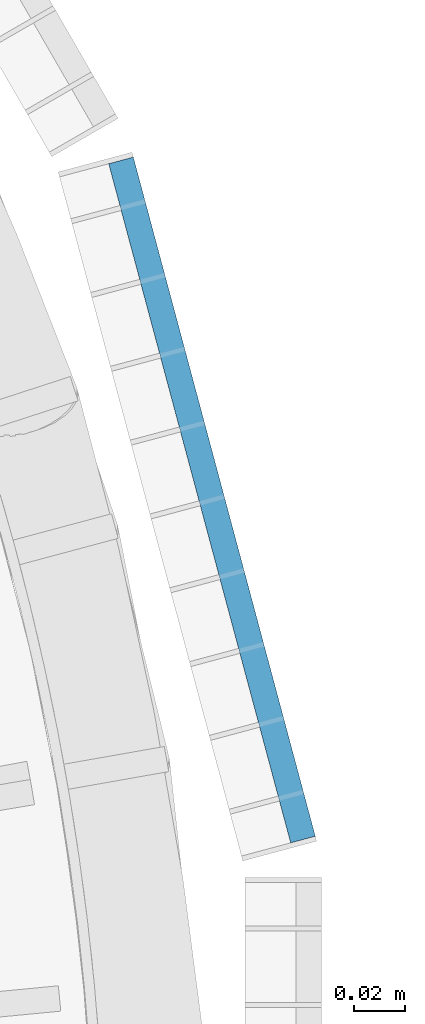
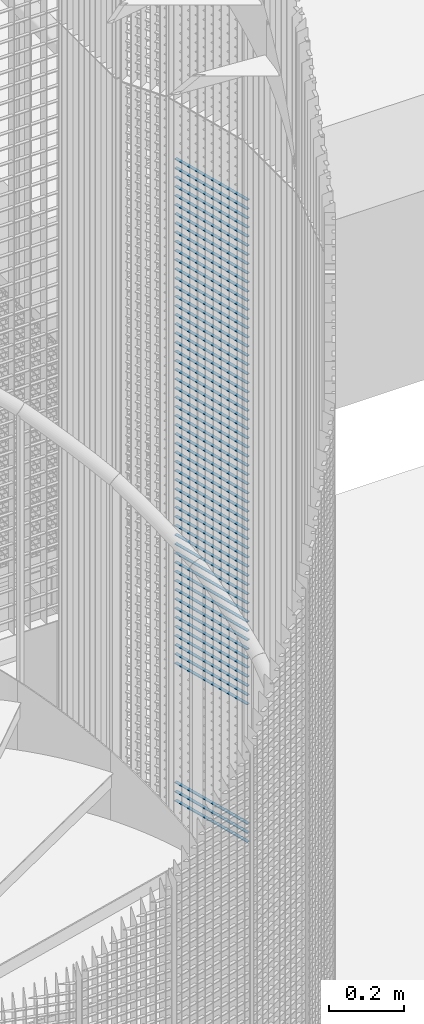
# One storey, part 288 of 1183: 59 beams, 1 element without a shape of its own.
"""IFC2X3 building model written with IfcOpenShell, lengths in millimetres."""

from ifc_helpers import new_model, si_unit, frame, origin_with_axes, origin_2d_with_axis, place, context, subcontext, project, spatial, rectangle, extrude, material, type_object, element, aggregate, save


model = new_model("IFC2X3")

# Units and contexts
model_context = context("Model", 3, precision=1e-05, world=origin_with_axes())
body_context = subcontext(model_context, "Body", "Model", "MODEL_VIEW")
ifc_project = project(units=[si_unit("LENGTHUNIT", "METRE", prefix="MILLI"), si_unit("AREAUNIT", "SQUARE_METRE"), si_unit("VOLUMEUNIT", "CUBIC_METRE"), si_unit("MASSUNIT", "GRAM", prefix="KILO"), si_unit("TIMEUNIT", "SECOND"), si_unit("PLANEANGLEUNIT", "RADIAN"), si_unit("SOLIDANGLEUNIT", "STERADIAN"), si_unit("THERMODYNAMICTEMPERATUREUNIT", "DEGREE_CELSIUS"), si_unit("LUMINOUSINTENSITYUNIT", "LUMEN")], contexts=[model_context])

# Site, building, storey
site_placement = place(None, origin_with_axes())
site = spatial("IfcSite", under=ifc_project, at=site_placement, Name="Undefined", CompositionType="ELEMENT")
building_placement = place(site_placement, origin_with_axes())
building = spatial("IfcBuilding", under=site, at=building_placement, Name="Undefined", CompositionType="ELEMENT")
storey_placement = place(building_placement, origin_with_axes())
storey = spatial("IfcBuildingStorey", under=building, at=storey_placement, Name="Undefined", CompositionType="ELEMENT", Elevation=0.0)

# Assembly, beams
assembly_placement = place(storey_placement, origin_with_axes())
assembly = element("IfcElementAssembly", 1, at=assembly_placement, inside=storey, Name="BORDURE", AssemblyPlace="NOTDEFINED", PredefinedType="NOTDEFINED")
ifc_material = material(Name="STEEL/S235JR")
beam_type = type_object("IfcBeamType", Name="PL2*10", PredefinedType="NOTDEFINED")
beam_1_placement = place(assembly_placement, frame((1111.25508286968, 154.895926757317, 11790.0), z_axis=(0.965925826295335, 0.258819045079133, 0.0), x_axis=(-0.258819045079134, 0.965925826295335, 0.0)))
beam_1 = element("IfcBeam", 2, at=beam_1_placement, type_object=beam_type, material=ifc_material, Name="ENTRETOISE", context=body_context, shape_type="SweptSolid", body=[
    extrude(rectangle(XDim=2.0, YDim=10.0, at=origin_2d_with_axis()), frame((275.999999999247, 9.09494701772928e-13, 1.53210777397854e-14), z_axis=(-1.0, 0.0, 0.0), x_axis=(0.0, -1.0, 0.0)), (0.0, 0.0, 1.0), 276.0),
])
beam_2_placement = place(assembly_placement, frame((1111.25508286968, 154.895926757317, 11760.0), z_axis=(0.965925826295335, 0.258819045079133, 0.0), x_axis=(-0.258819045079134, 0.965925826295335, 0.0)))
beam_2 = element("IfcBeam", 3, at=beam_2_placement, type_object=beam_type, material=ifc_material, Name="ENTRETOISE", context=body_context, shape_type="SweptSolid", body=[
    extrude(rectangle(XDim=2.0, YDim=10.0, at=origin_2d_with_axis()), frame((275.999999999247, 9.09494701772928e-13, 1.53210777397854e-14), z_axis=(-1.0, 0.0, 0.0), x_axis=(0.0, -1.0, 0.0)), (0.0, 0.0, 1.0), 276.0),
])
beam_3_placement = place(assembly_placement, frame((1111.25508286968, 154.895926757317, 11730.0), z_axis=(0.965925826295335, 0.258819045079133, 0.0), x_axis=(-0.258819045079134, 0.965925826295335, 0.0)))
beam_3 = element("IfcBeam", 4, at=beam_3_placement, type_object=beam_type, material=ifc_material, Name="ENTRETOISE", context=body_context, shape_type="SweptSolid", body=[
    extrude(rectangle(XDim=2.0, YDim=10.0, at=origin_2d_with_axis()), frame((275.999999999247, 9.09494701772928e-13, 1.53210777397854e-14), z_axis=(-1.0, 0.0, 0.0), x_axis=(0.0, -1.0, 0.0)), (0.0, 0.0, 1.0), 276.0),
])
beam_4_placement = place(assembly_placement, frame((1111.25508286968, 154.895926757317, 11700.0), z_axis=(0.965925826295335, 0.258819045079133, 0.0), x_axis=(-0.258819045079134, 0.965925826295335, 0.0)))
beam_4 = element("IfcBeam", 5, at=beam_4_placement, type_object=beam_type, material=ifc_material, Name="ENTRETOISE", context=body_context, shape_type="SweptSolid", body=[
    extrude(rectangle(XDim=2.0, YDim=10.0, at=origin_2d_with_axis()), frame((275.999999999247, 9.09494701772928e-13, 1.53210777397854e-14), z_axis=(-1.0, 0.0, 0.0), x_axis=(0.0, -1.0, 0.0)), (0.0, 0.0, 1.0), 276.0),
])
beam_5_placement = place(assembly_placement, frame((1111.25508286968, 154.895926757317, 11670.0), z_axis=(0.965925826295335, 0.258819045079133, 0.0), x_axis=(-0.258819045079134, 0.965925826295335, 0.0)))
beam_5 = element("IfcBeam", 6, at=beam_5_placement, type_object=beam_type, material=ifc_material, Name="ENTRETOISE", context=body_context, shape_type="SweptSolid", body=[
    extrude(rectangle(XDim=2.0, YDim=10.0, at=origin_2d_with_axis()), frame((275.999999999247, 9.09494701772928e-13, 1.53210777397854e-14), z_axis=(-1.0, 0.0, 0.0), x_axis=(0.0, -1.0, 0.0)), (0.0, 0.0, 1.0), 276.0),
])
beam_6_placement = place(assembly_placement, frame((1111.25508286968, 154.895926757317, 11640.0), z_axis=(0.965925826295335, 0.258819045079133, 0.0), x_axis=(-0.258819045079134, 0.965925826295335, 0.0)))
beam_6 = element("IfcBeam", 7, at=beam_6_placement, type_object=beam_type, material=ifc_material, Name="ENTRETOISE", context=body_context, shape_type="SweptSolid", body=[
    extrude(rectangle(XDim=2.0, YDim=10.0, at=origin_2d_with_axis()), frame((275.999999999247, 9.09494701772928e-13, 1.53210777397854e-14), z_axis=(-1.0, 0.0, 0.0), x_axis=(0.0, -1.0, 0.0)), (0.0, 0.0, 1.0), 276.0),
])
beam_7_placement = place(assembly_placement, frame((1111.25508286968, 154.895926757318, 11610.0), z_axis=(0.965925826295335, 0.258819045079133, 0.0), x_axis=(-0.258819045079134, 0.965925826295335, 0.0)))
beam_7 = element("IfcBeam", 8, at=beam_7_placement, type_object=beam_type, material=ifc_material, Name="ENTRETOISE", context=body_context, shape_type="SweptSolid", body=[
    extrude(rectangle(XDim=2.0, YDim=10.0, at=origin_2d_with_axis()), frame((275.999999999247, 9.09494701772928e-13, 1.53210777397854e-14), z_axis=(-1.0, 0.0, 0.0), x_axis=(0.0, -1.0, 0.0)), (0.0, 0.0, 1.0), 276.0),
])
beam_8_placement = place(assembly_placement, frame((1111.25508286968, 154.895926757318, 11580.0), z_axis=(0.965925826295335, 0.258819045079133, 0.0), x_axis=(-0.258819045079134, 0.965925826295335, 0.0)))
beam_8 = element("IfcBeam", 9, at=beam_8_placement, type_object=beam_type, material=ifc_material, Name="ENTRETOISE", context=body_context, shape_type="SweptSolid", body=[
    extrude(rectangle(XDim=2.0, YDim=10.0, at=origin_2d_with_axis()), frame((275.999999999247, 9.09494701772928e-13, 1.53210777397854e-14), z_axis=(-1.0, 0.0, 0.0), x_axis=(0.0, -1.0, 0.0)), (0.0, 0.0, 1.0), 276.0),
])
beam_9_placement = place(assembly_placement, frame((1111.25508286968, 154.895926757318, 11550.0), z_axis=(0.965925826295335, 0.258819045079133, 0.0), x_axis=(-0.258819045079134, 0.965925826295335, 0.0)))
beam_9 = element("IfcBeam", 10, at=beam_9_placement, type_object=beam_type, material=ifc_material, Name="ENTRETOISE", context=body_context, shape_type="SweptSolid", body=[
    extrude(rectangle(XDim=2.0, YDim=10.0, at=origin_2d_with_axis()), frame((275.999999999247, 9.09494701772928e-13, 1.53210777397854e-14), z_axis=(-1.0, 0.0, 0.0), x_axis=(0.0, -1.0, 0.0)), (0.0, 0.0, 1.0), 276.0),
])
beam_10_placement = place(assembly_placement, frame((1111.25508286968, 154.895926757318, 11520.0), z_axis=(0.965925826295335, 0.258819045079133, 0.0), x_axis=(-0.258819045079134, 0.965925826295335, 0.0)))
beam_10 = element("IfcBeam", 11, at=beam_10_placement, type_object=beam_type, material=ifc_material, Name="ENTRETOISE", context=body_context, shape_type="SweptSolid", body=[
    extrude(rectangle(XDim=2.0, YDim=10.0, at=origin_2d_with_axis()), frame((275.999999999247, 9.09494701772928e-13, 1.53210777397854e-14), z_axis=(-1.0, 0.0, 0.0), x_axis=(0.0, -1.0, 0.0)), (0.0, 0.0, 1.0), 276.0),
])
beam_11_placement = place(assembly_placement, frame((1111.25508286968, 154.895926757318, 11490.0), z_axis=(0.965925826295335, 0.258819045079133, 0.0), x_axis=(-0.258819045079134, 0.965925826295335, 0.0)))
beam_11 = element("IfcBeam", 12, at=beam_11_placement, type_object=beam_type, material=ifc_material, Name="ENTRETOISE", context=body_context, shape_type="SweptSolid", body=[
    extrude(rectangle(XDim=2.0, YDim=10.0, at=origin_2d_with_axis()), frame((275.999999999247, 9.09494701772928e-13, 1.53210777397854e-14), z_axis=(-1.0, 0.0, 0.0), x_axis=(0.0, -1.0, 0.0)), (0.0, 0.0, 1.0), 276.0),
])
beam_12_placement = place(assembly_placement, frame((1111.25508286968, 154.895926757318, 11460.0), z_axis=(0.965925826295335, 0.258819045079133, 0.0), x_axis=(-0.258819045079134, 0.965925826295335, 0.0)))
beam_12 = element("IfcBeam", 13, at=beam_12_placement, type_object=beam_type, material=ifc_material, Name="ENTRETOISE", context=body_context, shape_type="SweptSolid", body=[
    extrude(rectangle(XDim=2.0, YDim=10.0, at=origin_2d_with_axis()), frame((275.999999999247, 9.09494701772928e-13, 1.53210777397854e-14), z_axis=(-1.0, 0.0, 0.0), x_axis=(0.0, -1.0, 0.0)), (0.0, 0.0, 1.0), 276.0),
])
beam_13_placement = place(assembly_placement, frame((1111.25508286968, 154.895926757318, 11430.0), z_axis=(0.965925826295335, 0.258819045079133, 0.0), x_axis=(-0.258819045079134, 0.965925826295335, 0.0)))
beam_13 = element("IfcBeam", 14, at=beam_13_placement, type_object=beam_type, material=ifc_material, Name="ENTRETOISE", context=body_context, shape_type="SweptSolid", body=[
    extrude(rectangle(XDim=2.0, YDim=10.0, at=origin_2d_with_axis()), frame((275.999999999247, 9.09494701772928e-13, 1.53210777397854e-14), z_axis=(-1.0, 0.0, 0.0), x_axis=(0.0, -1.0, 0.0)), (0.0, 0.0, 1.0), 276.0),
])
beam_14_placement = place(assembly_placement, frame((1111.25508286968, 154.895926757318, 11400.0), z_axis=(0.965925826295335, 0.258819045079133, 0.0), x_axis=(-0.258819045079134, 0.965925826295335, 0.0)))
beam_14 = element("IfcBeam", 15, at=beam_14_placement, type_object=beam_type, material=ifc_material, Name="ENTRETOISE", context=body_context, shape_type="SweptSolid", body=[
    extrude(rectangle(XDim=2.0, YDim=10.0, at=origin_2d_with_axis()), frame((275.999999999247, 9.09494701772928e-13, 1.53210777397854e-14), z_axis=(-1.0, 0.0, 0.0), x_axis=(0.0, -1.0, 0.0)), (0.0, 0.0, 1.0), 276.0),
])
beam_15_placement = place(assembly_placement, frame((1111.25508286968, 154.895926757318, 11370.0), z_axis=(0.965925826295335, 0.258819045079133, 0.0), x_axis=(-0.258819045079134, 0.965925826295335, 0.0)))
beam_15 = element("IfcBeam", 16, at=beam_15_placement, type_object=beam_type, material=ifc_material, Name="ENTRETOISE", context=body_context, shape_type="SweptSolid", body=[
    extrude(rectangle(XDim=2.0, YDim=10.0, at=origin_2d_with_axis()), frame((275.999999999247, 9.09494701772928e-13, 1.53210777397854e-14), z_axis=(-1.0, 0.0, 0.0), x_axis=(0.0, -1.0, 0.0)), (0.0, 0.0, 1.0), 276.0),
])
beam_16_placement = place(assembly_placement, frame((1111.25508286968, 154.895926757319, 11340.0), z_axis=(0.965925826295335, 0.258819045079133, 0.0), x_axis=(-0.258819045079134, 0.965925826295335, 0.0)))
beam_16 = element("IfcBeam", 17, at=beam_16_placement, type_object=beam_type, material=ifc_material, Name="ENTRETOISE", context=body_context, shape_type="SweptSolid", body=[
    extrude(rectangle(XDim=2.0, YDim=10.0, at=origin_2d_with_axis()), frame((275.999999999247, 9.09494701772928e-13, 1.53210777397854e-14), z_axis=(-1.0, 0.0, 0.0), x_axis=(0.0, -1.0, 0.0)), (0.0, 0.0, 1.0), 276.0),
])
beam_17_placement = place(assembly_placement, frame((1111.25508286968, 154.895926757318, 11310.0), z_axis=(0.965925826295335, 0.258819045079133, 0.0), x_axis=(-0.258819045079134, 0.965925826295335, 0.0)))
beam_17 = element("IfcBeam", 18, at=beam_17_placement, type_object=beam_type, material=ifc_material, Name="ENTRETOISE", context=body_context, shape_type="SweptSolid", body=[
    extrude(rectangle(XDim=2.0, YDim=10.0, at=origin_2d_with_axis()), frame((275.999999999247, 9.09494701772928e-13, 1.53210777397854e-14), z_axis=(-1.0, 0.0, 0.0), x_axis=(0.0, -1.0, 0.0)), (0.0, 0.0, 1.0), 276.0),
])
beam_18_placement = place(assembly_placement, frame((1111.25508286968, 154.895926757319, 11280.0), z_axis=(0.965925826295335, 0.258819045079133, 0.0), x_axis=(-0.258819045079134, 0.965925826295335, 0.0)))
beam_18 = element("IfcBeam", 19, at=beam_18_placement, type_object=beam_type, material=ifc_material, Name="ENTRETOISE", context=body_context, shape_type="SweptSolid", body=[
    extrude(rectangle(XDim=2.0, YDim=10.0, at=origin_2d_with_axis()), frame((275.999999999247, 9.09494701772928e-13, 1.53210777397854e-14), z_axis=(-1.0, 0.0, 0.0), x_axis=(0.0, -1.0, 0.0)), (0.0, 0.0, 1.0), 276.0),
])
beam_19_placement = place(assembly_placement, frame((1111.25508286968, 154.895926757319, 11250.0), z_axis=(0.965925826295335, 0.258819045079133, 0.0), x_axis=(-0.258819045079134, 0.965925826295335, 0.0)))
beam_19 = element("IfcBeam", 20, at=beam_19_placement, type_object=beam_type, material=ifc_material, Name="ENTRETOISE", context=body_context, shape_type="SweptSolid", body=[
    extrude(rectangle(XDim=2.0, YDim=10.0, at=origin_2d_with_axis()), frame((275.999999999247, 9.09494701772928e-13, 1.53210777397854e-14), z_axis=(-1.0, 0.0, 0.0), x_axis=(0.0, -1.0, 0.0)), (0.0, 0.0, 1.0), 276.0),
])
beam_20_placement = place(assembly_placement, frame((1111.25508286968, 154.895926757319, 11220.0), z_axis=(0.965925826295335, 0.258819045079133, 0.0), x_axis=(-0.258819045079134, 0.965925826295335, 0.0)))
beam_20 = element("IfcBeam", 21, at=beam_20_placement, type_object=beam_type, material=ifc_material, Name="ENTRETOISE", context=body_context, shape_type="SweptSolid", body=[
    extrude(rectangle(XDim=2.0, YDim=10.0, at=origin_2d_with_axis()), frame((275.999999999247, 9.09494701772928e-13, 1.53210777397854e-14), z_axis=(-1.0, 0.0, 0.0), x_axis=(0.0, -1.0, 0.0)), (0.0, 0.0, 1.0), 276.0),
])
beam_21_placement = place(assembly_placement, frame((1111.25508286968, 154.895926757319, 11190.0), z_axis=(0.965925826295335, 0.258819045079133, 0.0), x_axis=(-0.258819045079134, 0.965925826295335, 0.0)))
beam_21 = element("IfcBeam", 22, at=beam_21_placement, type_object=beam_type, material=ifc_material, Name="ENTRETOISE", context=body_context, shape_type="SweptSolid", body=[
    extrude(rectangle(XDim=2.0, YDim=10.0, at=origin_2d_with_axis()), frame((275.999999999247, 9.09494701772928e-13, 1.53210777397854e-14), z_axis=(-1.0, 0.0, 0.0), x_axis=(0.0, -1.0, 0.0)), (0.0, 0.0, 1.0), 276.0),
])
beam_22_placement = place(assembly_placement, frame((1111.25508286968, 154.895926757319, 11160.0), z_axis=(0.965925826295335, 0.258819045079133, 0.0), x_axis=(-0.258819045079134, 0.965925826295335, 0.0)))
beam_22 = element("IfcBeam", 23, at=beam_22_placement, type_object=beam_type, material=ifc_material, Name="ENTRETOISE", context=body_context, shape_type="SweptSolid", body=[
    extrude(rectangle(XDim=2.0, YDim=10.0, at=origin_2d_with_axis()), frame((275.999999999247, 9.09494701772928e-13, 1.53210777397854e-14), z_axis=(-1.0, 0.0, 0.0), x_axis=(0.0, -1.0, 0.0)), (0.0, 0.0, 1.0), 276.0),
])
beam_23_placement = place(assembly_placement, frame((1111.25508286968, 154.895926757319, 11130.0), z_axis=(0.965925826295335, 0.258819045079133, 0.0), x_axis=(-0.258819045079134, 0.965925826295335, 0.0)))
beam_23 = element("IfcBeam", 24, at=beam_23_placement, type_object=beam_type, material=ifc_material, Name="ENTRETOISE", context=body_context, shape_type="SweptSolid", body=[
    extrude(rectangle(XDim=2.0, YDim=10.0, at=origin_2d_with_axis()), frame((275.999999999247, 9.09494701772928e-13, 1.53210777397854e-14), z_axis=(-1.0, 0.0, 0.0), x_axis=(0.0, -1.0, 0.0)), (0.0, 0.0, 1.0), 276.0),
])
beam_24_placement = place(assembly_placement, frame((1111.25508286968, 154.895926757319, 11100.0), z_axis=(0.965925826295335, 0.258819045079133, 0.0), x_axis=(-0.258819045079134, 0.965925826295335, 0.0)))
beam_24 = element("IfcBeam", 25, at=beam_24_placement, type_object=beam_type, material=ifc_material, Name="ENTRETOISE", context=body_context, shape_type="SweptSolid", body=[
    extrude(rectangle(XDim=2.0, YDim=10.0, at=origin_2d_with_axis()), frame((275.999999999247, 9.09494701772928e-13, 1.53210777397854e-14), z_axis=(-1.0, 0.0, 0.0), x_axis=(0.0, -1.0, 0.0)), (0.0, 0.0, 1.0), 276.0),
])
beam_25_placement = place(assembly_placement, frame((1111.25508286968, 154.895926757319, 11070.0), z_axis=(0.965925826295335, 0.258819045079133, 0.0), x_axis=(-0.258819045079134, 0.965925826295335, 0.0)))
beam_25 = element("IfcBeam", 26, at=beam_25_placement, type_object=beam_type, material=ifc_material, Name="ENTRETOISE", context=body_context, shape_type="SweptSolid", body=[
    extrude(rectangle(XDim=2.0, YDim=10.0, at=origin_2d_with_axis()), frame((275.999999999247, 9.09494701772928e-13, 1.53210777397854e-14), z_axis=(-1.0, 0.0, 0.0), x_axis=(0.0, -1.0, 0.0)), (0.0, 0.0, 1.0), 276.0),
])
beam_26_placement = place(assembly_placement, frame((1111.25508286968, 154.89592675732, 11040.0), z_axis=(0.965925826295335, 0.258819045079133, 0.0), x_axis=(-0.258819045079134, 0.965925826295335, 0.0)))
beam_26 = element("IfcBeam", 27, at=beam_26_placement, type_object=beam_type, material=ifc_material, Name="ENTRETOISE", context=body_context, shape_type="SweptSolid", body=[
    extrude(rectangle(XDim=2.0, YDim=10.0, at=origin_2d_with_axis()), frame((275.999999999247, 9.09494701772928e-13, 1.53210777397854e-14), z_axis=(-1.0, 0.0, 0.0), x_axis=(0.0, -1.0, 0.0)), (0.0, 0.0, 1.0), 276.0),
])
beam_27_placement = place(assembly_placement, frame((1111.25508286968, 154.89592675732, 11010.0), z_axis=(0.965925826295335, 0.258819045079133, 0.0), x_axis=(-0.258819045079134, 0.965925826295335, 0.0)))
beam_27 = element("IfcBeam", 28, at=beam_27_placement, type_object=beam_type, material=ifc_material, Name="ENTRETOISE", context=body_context, shape_type="SweptSolid", body=[
    extrude(rectangle(XDim=2.0, YDim=10.0, at=origin_2d_with_axis()), frame((275.999999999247, 9.09494701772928e-13, 1.53210777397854e-14), z_axis=(-1.0, 0.0, 0.0), x_axis=(0.0, -1.0, 0.0)), (0.0, 0.0, 1.0), 276.0),
])
beam_28_placement = place(assembly_placement, frame((1111.25508286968, 154.89592675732, 10980.0), z_axis=(0.965925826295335, 0.258819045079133, 0.0), x_axis=(-0.258819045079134, 0.965925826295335, 0.0)))
beam_28 = element("IfcBeam", 29, at=beam_28_placement, type_object=beam_type, material=ifc_material, Name="ENTRETOISE", context=body_context, shape_type="SweptSolid", body=[
    extrude(rectangle(XDim=2.0, YDim=10.0, at=origin_2d_with_axis()), frame((275.999999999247, 9.09494701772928e-13, 1.53210777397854e-14), z_axis=(-1.0, 0.0, 0.0), x_axis=(0.0, -1.0, 0.0)), (0.0, 0.0, 1.0), 276.0),
])
beam_29_placement = place(assembly_placement, frame((1111.25508286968, 154.89592675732, 10950.0), z_axis=(0.965925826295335, 0.258819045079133, 0.0), x_axis=(-0.258819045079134, 0.965925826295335, 0.0)))
beam_29 = element("IfcBeam", 30, at=beam_29_placement, type_object=beam_type, material=ifc_material, Name="ENTRETOISE", context=body_context, shape_type="SweptSolid", body=[
    extrude(rectangle(XDim=2.0, YDim=10.0, at=origin_2d_with_axis()), frame((275.999999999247, 9.09494701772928e-13, 1.53210777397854e-14), z_axis=(-1.0, 0.0, 0.0), x_axis=(0.0, -1.0, 0.0)), (0.0, 0.0, 1.0), 276.0),
])
beam_30_placement = place(assembly_placement, frame((1111.25508286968, 154.89592675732, 10920.0), z_axis=(0.965925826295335, 0.258819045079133, 0.0), x_axis=(-0.258819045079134, 0.965925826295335, 0.0)))
beam_30 = element("IfcBeam", 31, at=beam_30_placement, type_object=beam_type, material=ifc_material, Name="ENTRETOISE", context=body_context, shape_type="SweptSolid", body=[
    extrude(rectangle(XDim=2.0, YDim=10.0, at=origin_2d_with_axis()), frame((275.999999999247, 9.09494701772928e-13, 1.53210777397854e-14), z_axis=(-1.0, 0.0, 0.0), x_axis=(0.0, -1.0, 0.0)), (0.0, 0.0, 1.0), 276.0),
])
beam_31_placement = place(assembly_placement, frame((1111.25508286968, 154.89592675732, 10890.0), z_axis=(0.965925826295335, 0.258819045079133, 0.0), x_axis=(-0.258819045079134, 0.965925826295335, 0.0)))
beam_31 = element("IfcBeam", 32, at=beam_31_placement, type_object=beam_type, material=ifc_material, Name="ENTRETOISE", context=body_context, shape_type="SweptSolid", body=[
    extrude(rectangle(XDim=2.0, YDim=10.0, at=origin_2d_with_axis()), frame((275.999999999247, 9.09494701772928e-13, 1.53210777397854e-14), z_axis=(-1.0, 0.0, 0.0), x_axis=(0.0, -1.0, 0.0)), (0.0, 0.0, 1.0), 276.0),
])
beam_32_placement = place(assembly_placement, frame((1111.25508286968, 154.89592675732, 10860.0), z_axis=(0.965925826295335, 0.258819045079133, 0.0), x_axis=(-0.258819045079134, 0.965925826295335, 0.0)))
beam_32 = element("IfcBeam", 33, at=beam_32_placement, type_object=beam_type, material=ifc_material, Name="ENTRETOISE", context=body_context, shape_type="SweptSolid", body=[
    extrude(rectangle(XDim=2.0, YDim=10.0, at=origin_2d_with_axis()), frame((275.999999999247, 9.09494701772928e-13, 1.53210777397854e-14), z_axis=(-1.0, 0.0, 0.0), x_axis=(0.0, -1.0, 0.0)), (0.0, 0.0, 1.0), 276.0),
])
beam_33_placement = place(assembly_placement, frame((1111.25508286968, 154.89592675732, 10830.0), z_axis=(0.965925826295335, 0.258819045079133, 0.0), x_axis=(-0.258819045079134, 0.965925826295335, 0.0)))
beam_33 = element("IfcBeam", 34, at=beam_33_placement, type_object=beam_type, material=ifc_material, Name="ENTRETOISE", context=body_context, shape_type="SweptSolid", body=[
    extrude(rectangle(XDim=2.0, YDim=10.0, at=origin_2d_with_axis()), frame((275.999999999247, 9.09494701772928e-13, 1.53210777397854e-14), z_axis=(-1.0, 0.0, 0.0), x_axis=(0.0, -1.0, 0.0)), (0.0, 0.0, 1.0), 276.0),
])
beam_34_placement = place(assembly_placement, frame((1111.25508286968, 154.89592675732, 10800.0), z_axis=(0.965925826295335, 0.258819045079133, 0.0), x_axis=(-0.258819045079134, 0.965925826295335, 0.0)))
beam_34 = element("IfcBeam", 35, at=beam_34_placement, type_object=beam_type, material=ifc_material, Name="ENTRETOISE", context=body_context, shape_type="SweptSolid", body=[
    extrude(rectangle(XDim=2.0, YDim=10.0, at=origin_2d_with_axis()), frame((275.999999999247, 9.09494701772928e-13, 1.53210777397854e-14), z_axis=(-1.0, 0.0, 0.0), x_axis=(0.0, -1.0, 0.0)), (0.0, 0.0, 1.0), 276.0),
])
beam_35_placement = place(assembly_placement, frame((1111.25508286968, 154.89592675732, 10770.0), z_axis=(0.965925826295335, 0.258819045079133, 0.0), x_axis=(-0.258819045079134, 0.965925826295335, 0.0)))
beam_35 = element("IfcBeam", 36, at=beam_35_placement, type_object=beam_type, material=ifc_material, Name="ENTRETOISE", context=body_context, shape_type="SweptSolid", body=[
    extrude(rectangle(XDim=2.0, YDim=10.0, at=origin_2d_with_axis()), frame((275.999999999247, 9.09494701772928e-13, 1.53210777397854e-14), z_axis=(-1.0, 0.0, 0.0), x_axis=(0.0, -1.0, 0.0)), (0.0, 0.0, 1.0), 276.0),
])
beam_36_placement = place(assembly_placement, frame((1111.25508286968, 154.89592675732, 10740.0), z_axis=(0.965925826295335, 0.258819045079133, 0.0), x_axis=(-0.258819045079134, 0.965925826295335, 0.0)))
beam_36 = element("IfcBeam", 37, at=beam_36_placement, type_object=beam_type, material=ifc_material, Name="ENTRETOISE", context=body_context, shape_type="SweptSolid", body=[
    extrude(rectangle(XDim=2.0, YDim=10.0, at=origin_2d_with_axis()), frame((275.999999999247, 9.09494701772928e-13, 1.53210777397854e-14), z_axis=(-1.0, 0.0, 0.0), x_axis=(0.0, -1.0, 0.0)), (0.0, 0.0, 1.0), 276.0),
])
beam_37_placement = place(assembly_placement, frame((1111.25508286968, 154.895926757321, 10710.0), z_axis=(0.965925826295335, 0.258819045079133, 0.0), x_axis=(-0.258819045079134, 0.965925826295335, 0.0)))
beam_37 = element("IfcBeam", 38, at=beam_37_placement, type_object=beam_type, material=ifc_material, Name="ENTRETOISE", context=body_context, shape_type="SweptSolid", body=[
    extrude(rectangle(XDim=2.0, YDim=10.0, at=origin_2d_with_axis()), frame((275.999999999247, 9.09494701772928e-13, 1.53210777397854e-14), z_axis=(-1.0, 0.0, 0.0), x_axis=(0.0, -1.0, 0.0)), (0.0, 0.0, 1.0), 276.0),
])
beam_38_placement = place(assembly_placement, frame((1111.25508286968, 154.895926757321, 10680.0), z_axis=(0.965925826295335, 0.258819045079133, 0.0), x_axis=(-0.258819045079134, 0.965925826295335, 0.0)))
beam_38 = element("IfcBeam", 39, at=beam_38_placement, type_object=beam_type, material=ifc_material, Name="ENTRETOISE", context=body_context, shape_type="SweptSolid", body=[
    extrude(rectangle(XDim=2.0, YDim=10.0, at=origin_2d_with_axis()), frame((275.999999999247, 9.09494701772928e-13, 1.53210777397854e-14), z_axis=(-1.0, 0.0, 0.0), x_axis=(0.0, -1.0, 0.0)), (0.0, 0.0, 1.0), 276.0),
])
beam_39_placement = place(assembly_placement, frame((1111.25508286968, 154.895926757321, 10650.0), z_axis=(0.965925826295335, 0.258819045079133, 0.0), x_axis=(-0.258819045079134, 0.965925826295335, 0.0)))
beam_39 = element("IfcBeam", 40, at=beam_39_placement, type_object=beam_type, material=ifc_material, Name="ENTRETOISE", context=body_context, shape_type="SweptSolid", body=[
    extrude(rectangle(XDim=2.0, YDim=10.0, at=origin_2d_with_axis()), frame((275.999999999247, 9.09494701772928e-13, 1.53210777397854e-14), z_axis=(-1.0, 0.0, 0.0), x_axis=(0.0, -1.0, 0.0)), (0.0, 0.0, 1.0), 276.0),
])
beam_40_placement = place(assembly_placement, frame((1111.25508286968, 154.895926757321, 10620.0), z_axis=(0.965925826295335, 0.258819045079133, 0.0), x_axis=(-0.258819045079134, 0.965925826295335, 0.0)))
beam_40 = element("IfcBeam", 41, at=beam_40_placement, type_object=beam_type, material=ifc_material, Name="ENTRETOISE", context=body_context, shape_type="SweptSolid", body=[
    extrude(rectangle(XDim=2.0, YDim=10.0, at=origin_2d_with_axis()), frame((275.999999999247, 9.09494701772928e-13, 1.53210777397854e-14), z_axis=(-1.0, 0.0, 0.0), x_axis=(0.0, -1.0, 0.0)), (0.0, 0.0, 1.0), 276.0),
])
beam_41_placement = place(assembly_placement, frame((1111.25508286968, 154.895926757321, 10590.0), z_axis=(0.965925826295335, 0.258819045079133, 0.0), x_axis=(-0.258819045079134, 0.965925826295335, 0.0)))
beam_41 = element("IfcBeam", 42, at=beam_41_placement, type_object=beam_type, material=ifc_material, Name="ENTRETOISE", context=body_context, shape_type="SweptSolid", body=[
    extrude(rectangle(XDim=2.0, YDim=10.0, at=origin_2d_with_axis()), frame((275.999999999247, 9.09494701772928e-13, 1.53210777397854e-14), z_axis=(-1.0, 0.0, 0.0), x_axis=(0.0, -1.0, 0.0)), (0.0, 0.0, 1.0), 276.0),
])
beam_42_placement = place(assembly_placement, frame((1111.25508286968, 154.895926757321, 10560.0), z_axis=(0.965925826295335, 0.258819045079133, 0.0), x_axis=(-0.258819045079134, 0.965925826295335, 0.0)))
beam_42 = element("IfcBeam", 43, at=beam_42_placement, type_object=beam_type, material=ifc_material, Name="ENTRETOISE", context=body_context, shape_type="SweptSolid", body=[
    extrude(rectangle(XDim=2.0, YDim=10.0, at=origin_2d_with_axis()), frame((275.999999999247, 9.09494701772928e-13, 1.53210777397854e-14), z_axis=(-1.0, 0.0, 0.0), x_axis=(0.0, -1.0, 0.0)), (0.0, 0.0, 1.0), 276.0),
])
beam_43_placement = place(assembly_placement, frame((1111.25508286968, 154.895926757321, 10530.0), z_axis=(0.965925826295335, 0.258819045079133, 0.0), x_axis=(-0.258819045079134, 0.965925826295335, 0.0)))
beam_43 = element("IfcBeam", 44, at=beam_43_placement, type_object=beam_type, material=ifc_material, Name="ENTRETOISE", context=body_context, shape_type="SweptSolid", body=[
    extrude(rectangle(XDim=2.0, YDim=10.0, at=origin_2d_with_axis()), frame((275.999999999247, 9.09494701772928e-13, 1.53210777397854e-14), z_axis=(-1.0, 0.0, 0.0), x_axis=(0.0, -1.0, 0.0)), (0.0, 0.0, 1.0), 276.0),
])
beam_44_placement = place(assembly_placement, frame((1111.25508286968, 154.895926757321, 10500.0), z_axis=(0.965925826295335, 0.258819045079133, 0.0), x_axis=(-0.258819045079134, 0.965925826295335, 0.0)))
beam_44 = element("IfcBeam", 45, at=beam_44_placement, type_object=beam_type, material=ifc_material, Name="ENTRETOISE", context=body_context, shape_type="SweptSolid", body=[
    extrude(rectangle(XDim=2.0, YDim=10.0, at=origin_2d_with_axis()), frame((275.999999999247, 9.09494701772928e-13, 1.53210777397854e-14), z_axis=(-1.0, 0.0, 0.0), x_axis=(0.0, -1.0, 0.0)), (0.0, 0.0, 1.0), 276.0),
])
beam_45_placement = place(assembly_placement, frame((1111.25508286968, 154.895926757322, 10470.0), z_axis=(0.965925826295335, 0.258819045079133, 0.0), x_axis=(-0.258819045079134, 0.965925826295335, 0.0)))
beam_45 = element("IfcBeam", 46, at=beam_45_placement, type_object=beam_type, material=ifc_material, Name="ENTRETOISE", context=body_context, shape_type="SweptSolid", body=[
    extrude(rectangle(XDim=2.0, YDim=10.0, at=origin_2d_with_axis()), frame((275.999999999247, 9.09494701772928e-13, 1.53210777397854e-14), z_axis=(-1.0, 0.0, 0.0), x_axis=(0.0, -1.0, 0.0)), (0.0, 0.0, 1.0), 276.0),
])
beam_46_placement = place(assembly_placement, frame((1111.25508286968, 154.895926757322, 10440.0), z_axis=(0.965925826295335, 0.258819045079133, 0.0), x_axis=(-0.258819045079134, 0.965925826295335, 0.0)))
beam_46 = element("IfcBeam", 47, at=beam_46_placement, type_object=beam_type, material=ifc_material, Name="ENTRETOISE", context=body_context, shape_type="SweptSolid", body=[
    extrude(rectangle(XDim=2.0, YDim=10.0, at=origin_2d_with_axis()), frame((275.999999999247, 9.09494701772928e-13, 1.53210777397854e-14), z_axis=(-1.0, 0.0, 0.0), x_axis=(0.0, -1.0, 0.0)), (0.0, 0.0, 1.0), 276.0),
])
beam_47_placement = place(assembly_placement, frame((1111.25508286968, 154.895926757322, 10410.0), z_axis=(0.965925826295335, 0.258819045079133, 0.0), x_axis=(-0.258819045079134, 0.965925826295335, 0.0)))
beam_47 = element("IfcBeam", 48, at=beam_47_placement, type_object=beam_type, material=ifc_material, Name="ENTRETOISE", context=body_context, shape_type="SweptSolid", body=[
    extrude(rectangle(XDim=2.0, YDim=10.0, at=origin_2d_with_axis()), frame((275.999999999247, 9.09494701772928e-13, 1.53210777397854e-14), z_axis=(-1.0, 0.0, 0.0), x_axis=(0.0, -1.0, 0.0)), (0.0, 0.0, 1.0), 276.0),
])
beam_48_placement = place(assembly_placement, frame((1111.25508286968, 154.895926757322, 10380.0), z_axis=(0.965925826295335, 0.258819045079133, 0.0), x_axis=(-0.258819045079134, 0.965925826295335, 0.0)))
beam_48 = element("IfcBeam", 49, at=beam_48_placement, type_object=beam_type, material=ifc_material, Name="ENTRETOISE", context=body_context, shape_type="SweptSolid", body=[
    extrude(rectangle(XDim=2.0, YDim=10.0, at=origin_2d_with_axis()), frame((275.999999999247, 9.09494701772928e-13, 1.53210777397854e-14), z_axis=(-1.0, 0.0, 0.0), x_axis=(0.0, -1.0, 0.0)), (0.0, 0.0, 1.0), 276.0),
])
beam_49_placement = place(assembly_placement, frame((1111.25508286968, 154.895926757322, 10350.0), z_axis=(0.965925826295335, 0.258819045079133, 0.0), x_axis=(-0.258819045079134, 0.965925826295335, 0.0)))
beam_49 = element("IfcBeam", 50, at=beam_49_placement, type_object=beam_type, material=ifc_material, Name="ENTRETOISE", context=body_context, shape_type="SweptSolid", body=[
    extrude(rectangle(XDim=2.0, YDim=10.0, at=origin_2d_with_axis()), frame((275.999999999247, 9.09494701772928e-13, 1.53210777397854e-14), z_axis=(-1.0, 0.0, 0.0), x_axis=(0.0, -1.0, 0.0)), (0.0, 0.0, 1.0), 276.0),
])
beam_50_placement = place(assembly_placement, frame((1111.25508286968, 154.895926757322, 10320.0), z_axis=(0.965925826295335, 0.258819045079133, 0.0), x_axis=(-0.258819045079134, 0.965925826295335, 0.0)))
beam_50 = element("IfcBeam", 51, at=beam_50_placement, type_object=beam_type, material=ifc_material, Name="ENTRETOISE", context=body_context, shape_type="SweptSolid", body=[
    extrude(rectangle(XDim=2.0, YDim=10.0, at=origin_2d_with_axis()), frame((275.999999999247, 9.09494701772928e-13, 1.53210777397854e-14), z_axis=(-1.0, 0.0, 0.0), x_axis=(0.0, -1.0, 0.0)), (0.0, 0.0, 1.0), 276.0),
])
beam_51_placement = place(assembly_placement, frame((1111.25508286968, 154.895926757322, 10290.0), z_axis=(0.965925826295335, 0.258819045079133, 0.0), x_axis=(-0.258819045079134, 0.965925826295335, 0.0)))
beam_51 = element("IfcBeam", 52, at=beam_51_placement, type_object=beam_type, material=ifc_material, Name="ENTRETOISE", context=body_context, shape_type="SweptSolid", body=[
    extrude(rectangle(XDim=2.0, YDim=10.0, at=origin_2d_with_axis()), frame((275.999999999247, 9.09494701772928e-13, 1.53210777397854e-14), z_axis=(-1.0, 0.0, 0.0), x_axis=(0.0, -1.0, 0.0)), (0.0, 0.0, 1.0), 276.0),
])
beam_52_placement = place(assembly_placement, frame((1111.25508286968, 154.895926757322, 10260.0), z_axis=(0.965925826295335, 0.258819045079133, 0.0), x_axis=(-0.258819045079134, 0.965925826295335, 0.0)))
beam_52 = element("IfcBeam", 53, at=beam_52_placement, type_object=beam_type, material=ifc_material, Name="ENTRETOISE", context=body_context, shape_type="SweptSolid", body=[
    extrude(rectangle(XDim=2.0, YDim=10.0, at=origin_2d_with_axis()), frame((275.999999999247, 9.09494701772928e-13, 1.53210777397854e-14), z_axis=(-1.0, 0.0, 0.0), x_axis=(0.0, -1.0, 0.0)), (0.0, 0.0, 1.0), 276.0),
])
beam_53_placement = place(assembly_placement, frame((1111.25508286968, 154.895926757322, 10230.0), z_axis=(0.965925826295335, 0.258819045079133, 0.0), x_axis=(-0.258819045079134, 0.965925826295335, 0.0)))
beam_53 = element("IfcBeam", 54, at=beam_53_placement, type_object=beam_type, material=ifc_material, Name="ENTRETOISE", context=body_context, shape_type="SweptSolid", body=[
    extrude(rectangle(XDim=2.0, YDim=10.0, at=origin_2d_with_axis()), frame((275.999999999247, 9.09494701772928e-13, 1.53210777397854e-14), z_axis=(-1.0, 0.0, 0.0), x_axis=(0.0, -1.0, 0.0)), (0.0, 0.0, 1.0), 276.0),
])
beam_54_placement = place(assembly_placement, frame((1111.25508286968, 154.895926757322, 10200.0), z_axis=(0.965925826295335, 0.258819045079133, 0.0), x_axis=(-0.258819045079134, 0.965925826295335, 0.0)))
beam_54 = element("IfcBeam", 55, at=beam_54_placement, type_object=beam_type, material=ifc_material, Name="ENTRETOISE", context=body_context, shape_type="SweptSolid", body=[
    extrude(rectangle(XDim=2.0, YDim=10.0, at=origin_2d_with_axis()), frame((275.999999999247, 9.09494701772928e-13, 1.53210777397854e-14), z_axis=(-1.0, 0.0, 0.0), x_axis=(0.0, -1.0, 0.0)), (0.0, 0.0, 1.0), 276.0),
])
beam_55_placement = place(assembly_placement, frame((1111.25508286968, 154.895926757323, 10170.0), z_axis=(0.965925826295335, 0.258819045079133, 0.0), x_axis=(-0.258819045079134, 0.965925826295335, 0.0)))
beam_55 = element("IfcBeam", 56, at=beam_55_placement, type_object=beam_type, material=ifc_material, Name="ENTRETOISE", context=body_context, shape_type="SweptSolid", body=[
    extrude(rectangle(XDim=2.0, YDim=10.0, at=origin_2d_with_axis()), frame((275.999999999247, 9.09494701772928e-13, 1.53210777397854e-14), z_axis=(-1.0, 0.0, 0.0), x_axis=(0.0, -1.0, 0.0)), (0.0, 0.0, 1.0), 276.0),
])
beam_56_placement = place(assembly_placement, frame((1111.25508286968, 154.895926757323, 10140.0), z_axis=(0.965925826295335, 0.258819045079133, 0.0), x_axis=(-0.258819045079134, 0.965925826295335, 0.0)))
beam_56 = element("IfcBeam", 57, at=beam_56_placement, type_object=beam_type, material=ifc_material, Name="ENTRETOISE", context=body_context, shape_type="SweptSolid", body=[
    extrude(rectangle(XDim=2.0, YDim=10.0, at=origin_2d_with_axis()), frame((275.999999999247, 9.09494701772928e-13, 1.53210777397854e-14), z_axis=(-1.0, 0.0, 0.0), x_axis=(0.0, -1.0, 0.0)), (0.0, 0.0, 1.0), 276.0),
])
beam_57_placement = place(assembly_placement, frame((1111.25508286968, 154.895926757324, 9720.0), z_axis=(0.965925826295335, 0.258819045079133, 0.0), x_axis=(-0.258819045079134, 0.965925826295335, 0.0)))
beam_57 = element("IfcBeam", 58, at=beam_57_placement, type_object=beam_type, material=ifc_material, Name="ENTRETOISE", context=body_context, shape_type="SweptSolid", body=[
    extrude(rectangle(XDim=2.0, YDim=10.0, at=origin_2d_with_axis()), frame((275.999999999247, 9.09494701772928e-13, 1.53210777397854e-14), z_axis=(-1.0, 0.0, 0.0), x_axis=(0.0, -1.0, 0.0)), (0.0, 0.0, 1.0), 276.0),
])
beam_58_placement = place(assembly_placement, frame((1111.25508286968, 154.895926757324, 9690.0), z_axis=(0.965925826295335, 0.258819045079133, 0.0), x_axis=(-0.258819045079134, 0.965925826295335, 0.0)))
beam_58 = element("IfcBeam", 59, at=beam_58_placement, type_object=beam_type, material=ifc_material, Name="ENTRETOISE", context=body_context, shape_type="SweptSolid", body=[
    extrude(rectangle(XDim=2.0, YDim=10.0, at=origin_2d_with_axis()), frame((275.999999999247, 9.09494701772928e-13, 1.53210777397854e-14), z_axis=(-1.0, 0.0, 0.0), x_axis=(0.0, -1.0, 0.0)), (0.0, 0.0, 1.0), 276.0),
])
beam_59_placement = place(assembly_placement, frame((1111.25508286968, 154.895926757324, 9750.0), z_axis=(0.965925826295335, 0.258819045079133, 0.0), x_axis=(-0.258819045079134, 0.965925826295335, 0.0)))
beam_59 = element("IfcBeam", 60, at=beam_59_placement, type_object=beam_type, material=ifc_material, Name="ENTRETOISE", context=body_context, shape_type="SweptSolid", body=[
    extrude(rectangle(XDim=2.0, YDim=10.0, at=origin_2d_with_axis()), frame((275.999999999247, 9.09494701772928e-13, 1.53210777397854e-14), z_axis=(-1.0, 0.0, 0.0), x_axis=(0.0, -1.0, 0.0)), (0.0, 0.0, 1.0), 276.0),
])
aggregate(assembly, [beam_1, beam_2, beam_3, beam_4, beam_5, beam_6, beam_7, beam_8, beam_9, beam_10, beam_11, beam_12, beam_13, beam_14, beam_15, beam_16, beam_17, beam_18, beam_19, beam_20, beam_21, beam_22, beam_23, beam_24, beam_25, beam_26, beam_27, beam_28, beam_29, beam_30, beam_31, beam_32, beam_33, beam_34, beam_35, beam_36, beam_37, beam_38, beam_39, beam_40, beam_41, beam_42, beam_43, beam_44, beam_45, beam_46, beam_47, beam_48, beam_49, beam_50, beam_51, beam_52, beam_53, beam_54, beam_55, beam_56, beam_57, beam_58, beam_59])

save(model, "model.ifc")
